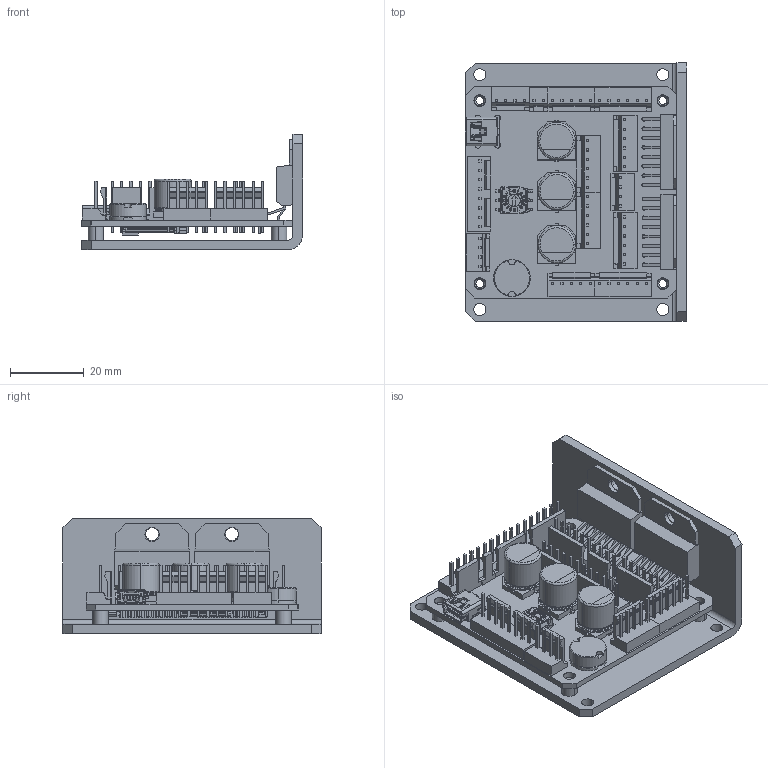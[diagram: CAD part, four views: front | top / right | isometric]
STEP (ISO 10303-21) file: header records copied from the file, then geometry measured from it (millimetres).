
FILE_DESCRIPTION (( 'STEP AP214' ), '1' );
FILE_NAME ('EZHR23EN48V.STEP', '2016-02-03T23:06:59', ( '' ), ( '' ), 'SwSTEP 2.0', 'SolidWorks 2015', '' );
FILE_SCHEMA (( 'AUTOMOTIVE_DESIGN' ));
Length unit declared in the file: millimetre
Products named in the file (270): M18_19; M9_RGB8421504; M18_77; M18_57; HS-4; M18_38; M18_18; M18_96; M18_76; HS-2; M18_37; M18_95; M11_RGB8421504; M18_56; HS-1; M18_17; M18_75; M18_36; M18_94; M7_RGB8421504; M18_55; HS; M18_16; M18_74; M18_35; M18_93; M4_RGB8421504; M18_54; _SH-700-Without_knob_(Minus_slot); M18_15; M18_73; M18_34; M18_92; M6_RGB8421504; M18_53; _SH-7050B_body; M18_14; M18_72; M30; M18_33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
Assembly tree (137 placements, depth 6):
  M18_19
  M18_77
  HS-4
  M18_38
  M18_96
Bounding box: 59.81 x 69.85 x 31.16 mm (x, y, z)
Volume: 30535.5 mm3; surface area: 35488.6 mm2
Topology: 33 solids, 135 shells, 5761 faces, 15943 edges, 10566 vertices
Faces by surface type: plane 4305, cylinder 1269, bspline 122, cone 38, torus 23, sphere 4
Entity records: 250798 total; most frequent: CARTESIAN_POINT 38873, ORIENTED_EDGE 31382, DIRECTION 29260, EDGE_CURVE 15943, LINE 12866, VECTOR 12866, VERTEX_POINT 10566, AXIS2_PLACEMENT_3D 8197
